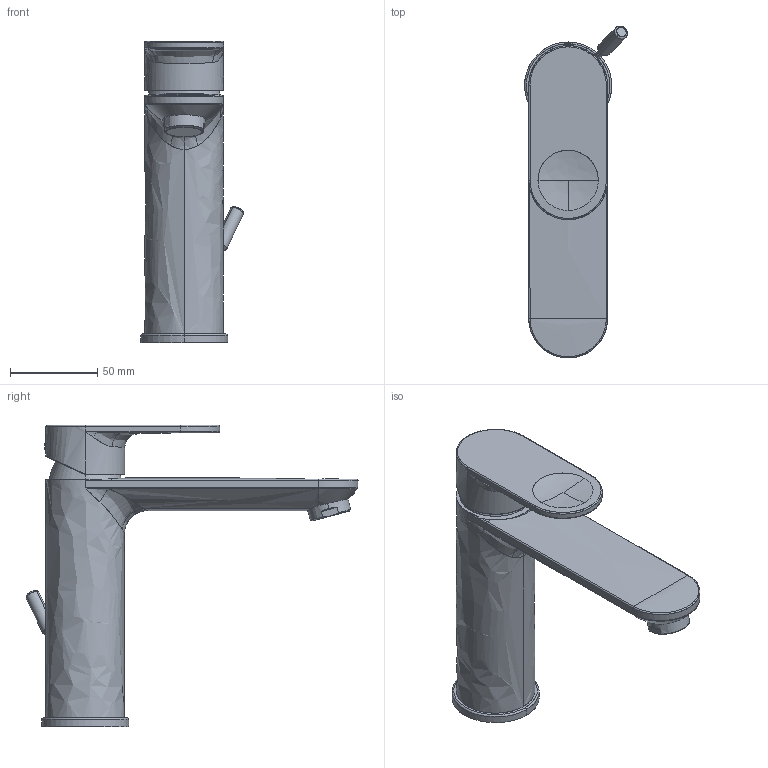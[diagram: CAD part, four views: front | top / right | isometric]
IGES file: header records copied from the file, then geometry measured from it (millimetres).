
Global section: file name: D:\01_Planungsdaten\_news19\Armaturen\B3\B31020001010\3D\Iges\B31020001010_neu.igs; native system: Rhinoceros ( Sep 13 2016 ); preprocessor: Trout Lake IGES 012 Sep 13 2016; date: 190225.142335; units: millimetre
Bounding box: 58.77 x 189.86 x 172.35 mm (x, y, z)
Surface area: 54255.4 mm2 (no closed solid volume)
Topology: 0 solids, 0 shells, 124 faces, 1137 edges, 1134 vertices
Faces by surface type: bspline 124
